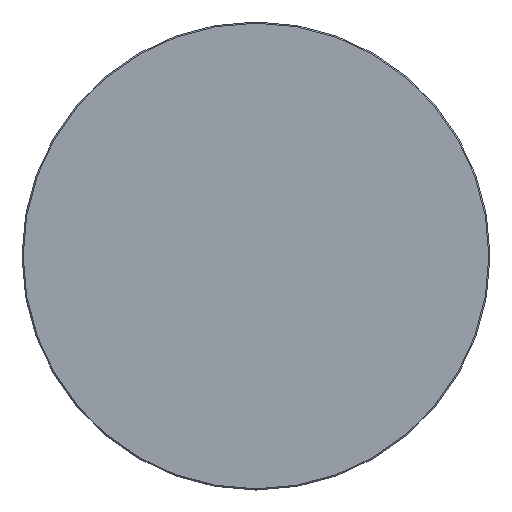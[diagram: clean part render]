
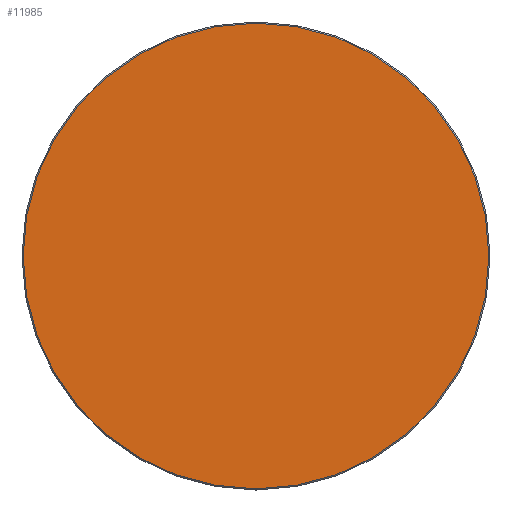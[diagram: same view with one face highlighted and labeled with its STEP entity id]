
A CAD part, top view. The second image highlights one B-rep face of the part: STEP entity #11985.
In plain terms, the highlighted planar face has unit normal (0, 0, 1).
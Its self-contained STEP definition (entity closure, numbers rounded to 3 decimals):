
#11910=CARTESIAN_POINT('',(0.,0.,20.));
#11911=DIRECTION('',(1.,0.,0.));
#11912=DIRECTION('',(0.,0.,1.));
#11913=AXIS2_PLACEMENT_3D('',#11910,#11912,#11911);
#11914=PLANE('',#11913);
#11915=CARTESIAN_POINT('',(-0.5,-298.5,20.));
#11916=VERTEX_POINT('',#11915);
#11917=CARTESIAN_POINT('',(0.5,-298.5,20.));
#11918=VERTEX_POINT('',#11917);
#11919=CARTESIAN_POINT('',(-0.5,-298.5,20.));
#11920=DIRECTION('',(1.,0.,0.));
#11921=VECTOR('',#11920,1.);
#11922=LINE('',#11919,#11921);
#11923=EDGE_CURVE('',#11916,#11918,#11922,.T.);
#11924=ORIENTED_EDGE('E105',*,*,#11923,.T.);
#11925=CARTESIAN_POINT('',(298.5,-0.5,20.));
#11926=VERTEX_POINT('',#11925);
#11927=CARTESIAN_POINT('',(0.5,-0.5,20.));
#11928=DIRECTION('',(0.,-1.,0.));
#11929=DIRECTION('',(0.,0.,1.));
#11930=AXIS2_PLACEMENT_3D('',#11927,#11929,#11928);
#11931=CIRCLE('',#11930,298.);
#11932=EDGE_CURVE('',#11918,#11926,#11931,.T.);
#11933=ORIENTED_EDGE('E107',*,*,#11932,.T.);
#11934=CARTESIAN_POINT('',(298.5,0.5,20.));
#11935=VERTEX_POINT('',#11934);
#11936=CARTESIAN_POINT('',(298.5,-0.5,20.));
#11937=DIRECTION('',(0.,1.,0.));
#11938=VECTOR('',#11937,1.);
#11939=LINE('',#11936,#11938);
#11940=EDGE_CURVE('',#11926,#11935,#11939,.T.);
#11941=ORIENTED_EDGE('E109',*,*,#11940,.T.);
#11942=CARTESIAN_POINT('',(0.5,298.5,20.));
#11943=VERTEX_POINT('',#11942);
#11944=CARTESIAN_POINT('',(0.5,0.5,20.));
#11945=DIRECTION('',(1.,0.,0.));
#11946=DIRECTION('',(0.,0.,1.));
#11947=AXIS2_PLACEMENT_3D('',#11944,#11946,#11945);
#11948=CIRCLE('',#11947,298.);
#11949=EDGE_CURVE('',#11935,#11943,#11948,.T.);
#11950=ORIENTED_EDGE('E111',*,*,#11949,.T.);
#11951=CARTESIAN_POINT('',(-0.5,298.5,20.));
#11952=VERTEX_POINT('',#11951);
#11953=CARTESIAN_POINT('',(0.5,298.5,20.));
#11954=DIRECTION('',(-1.,0.,0.));
#11955=VECTOR('',#11954,1.);
#11956=LINE('',#11953,#11955);
#11957=EDGE_CURVE('',#11943,#11952,#11956,.T.);
#11958=ORIENTED_EDGE('E113',*,*,#11957,.T.);
#11959=CARTESIAN_POINT('',(-298.5,0.5,20.));
#11960=VERTEX_POINT('',#11959);
#11961=CARTESIAN_POINT('',(-0.5,0.5,20.));
#11962=DIRECTION('',(0.,1.,0.));
#11963=DIRECTION('',(0.,0.,1.));
#11964=AXIS2_PLACEMENT_3D('',#11961,#11963,#11962);
#11965=CIRCLE('',#11964,298.);
#11966=EDGE_CURVE('',#11952,#11960,#11965,.T.);
#11967=ORIENTED_EDGE('E115',*,*,#11966,.T.);
#11968=CARTESIAN_POINT('',(-298.5,-0.5,20.));
#11969=VERTEX_POINT('',#11968);
#11970=CARTESIAN_POINT('',(-298.5,0.5,20.));
#11971=DIRECTION('',(0.,-1.,0.));
#11972=VECTOR('',#11971,1.);
#11973=LINE('',#11970,#11972);
#11974=EDGE_CURVE('',#11960,#11969,#11973,.T.);
#11975=ORIENTED_EDGE('E117',*,*,#11974,.T.);
#11976=CARTESIAN_POINT('',(-0.5,-0.5,20.));
#11977=DIRECTION('',(-1.,0.,0.));
#11978=DIRECTION('',(-0.,0.,1.));
#11979=AXIS2_PLACEMENT_3D('',#11976,#11978,#11977);
#11980=CIRCLE('',#11979,298.);
#11981=EDGE_CURVE('',#11969,#11916,#11980,.T.);
#11982=ORIENTED_EDGE('E119',*,*,#11981,.T.);
#11983=EDGE_LOOP('',(#11924,#11933,#11941,#11950,#11958,#11967,#11975,#11982));
#11984=FACE_OUTER_BOUND('',#11983,.T.);
#11985=ADVANCED_FACE('F2',(#11984),#11914,.T.);
